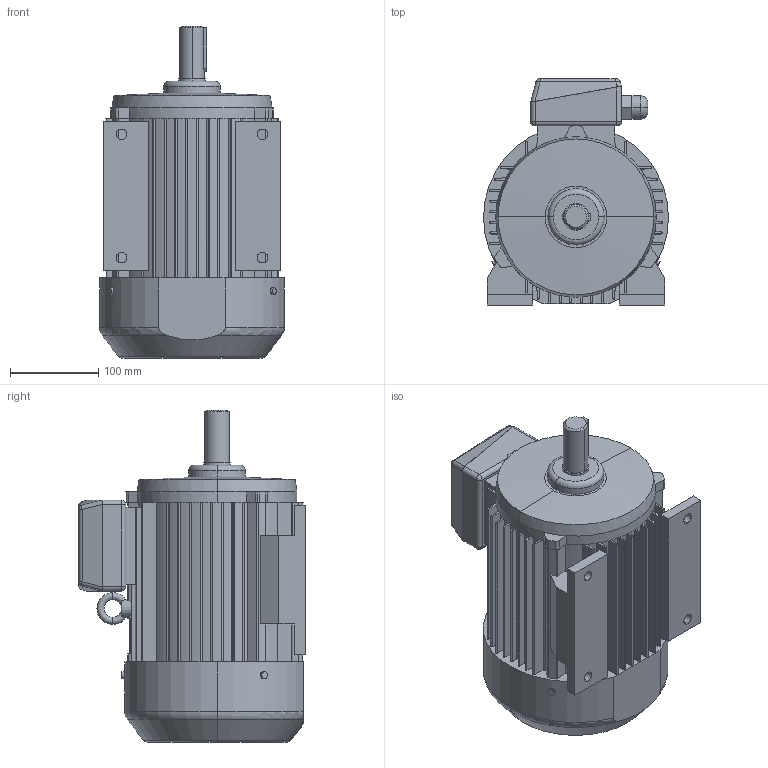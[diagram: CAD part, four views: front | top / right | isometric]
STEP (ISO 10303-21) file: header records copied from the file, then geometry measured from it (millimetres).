
FILE_DESCRIPTION (( 'STEP AP203' ), '1' );
FILE_NAME ('3SIE100L2,6.STEP', '2016-02-08T12:08:58', ( 'Indukta' ), ( 'Celma Indukta S.A.' ), 'SwSTEP 2.0', 'SolidWorks 2003064', '' );
FILE_SCHEMA (( 'CONFIG_CONTROL_DESIGN' ));
Length unit declared in the file: millimetre
Products named in the file (1): 3SIE100L2,6
Bounding box: 210 x 257 x 377 mm (x, y, z)
Volume: 9705413.2 mm3; surface area: 467426.7 mm2
Topology: 1 solids, 1 shells, 572 faces, 1554 edges, 989 vertices
Faces by surface type: plane 296, cylinder 165, bspline 78, torus 15, cone 10, sphere 8
Entity records: 24352 total; most frequent: CARTESIAN_POINT 10138, ORIENTED_EDGE 3092, DIRECTION 2772, EDGE_CURVE 1546, VERTEX_POINT 989, AXIS2_PLACEMENT_3D 929, LINE 914, VECTOR 914
